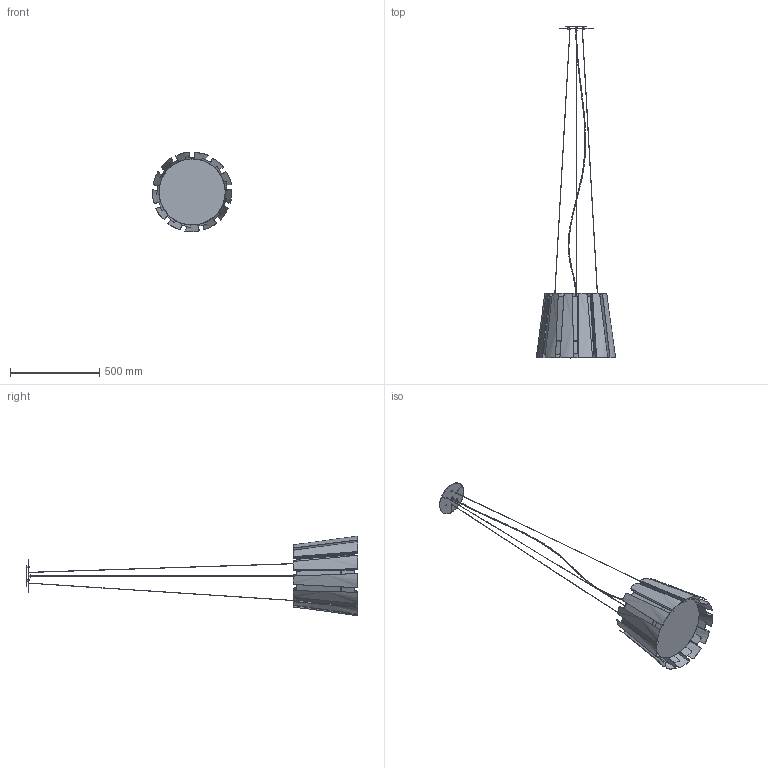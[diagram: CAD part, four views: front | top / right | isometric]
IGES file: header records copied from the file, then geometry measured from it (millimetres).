
Start section: SolidWorks IGES file using analytic representation for surfaces
Global section: file name: C:\Users\libre2.DOMINIO\Desktop\CARPYEN\3D\NAHTRANG\twist\twist L\TWIST L PENDANT.IGS; native system: SolidWorks 2014; preprocessor: SolidWorks 2014; author: libre2; date: 160804.103106; units: millimetre
Bounding box: 446.17 x 1859.86 x 446.25 mm (x, y, z)
Surface area: 1746036.9 mm2 (no closed solid volume)
Topology: 0 solids, 0 shells, 1061 faces, 12977 edges, 12969 vertices
Faces by surface type: bspline 597, revolution 464
